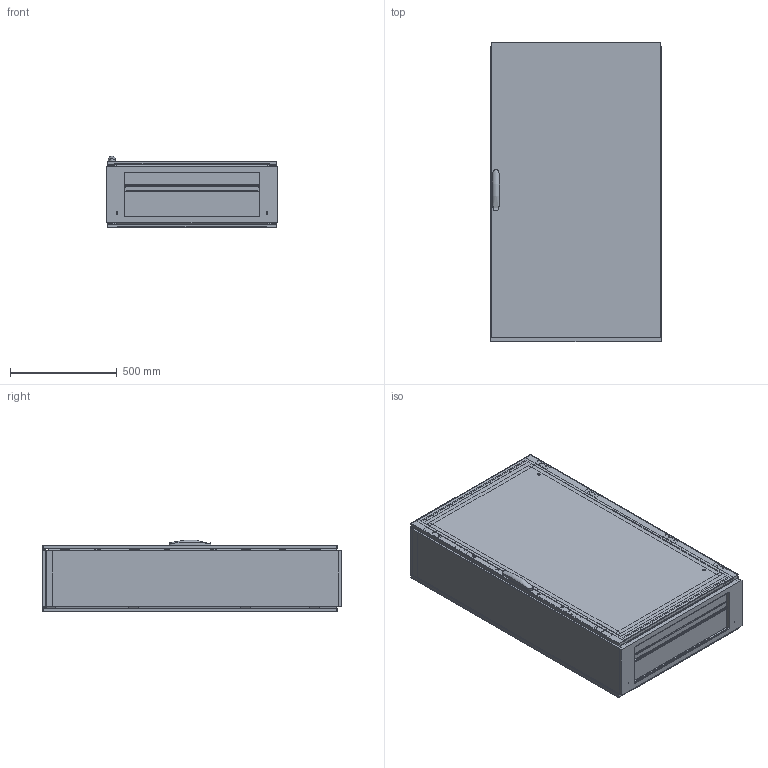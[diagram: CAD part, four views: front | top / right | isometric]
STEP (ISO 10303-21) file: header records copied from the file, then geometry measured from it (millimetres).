
FILE_DESCRIPTION(/* description */ ('STEP AP203'),/* implementation_level */ '2;1');
FILE_NAME(/* name */ 'MKS14083R5(0)',/* time_stamp */ '2024-02-21T16:41:46+01:00',/* author */ ('License CC BY-ND 4.0'),/* organization */ ('CADENAS'),/* preprocessor_version */ 'ST-DEVELOPER v19.3',/* originating_system */ 'PARTsolutions',/* authorisation */ ' ');
FILE_SCHEMA (('CONFIG_CONTROL_DESIGN'));
Length unit declared in the file: millimetre
Products named in the file (18): MKS14083R5(0); MKS14083R5(0)_Frame; CRPK08(0)_Rear Panel Mounting Kit; CRP1408R5(0)_Rear Panel; DNMK02(0)_Hinge Right; DN1408R5(0)_Plain door; LSSDXXXX(0)_Lock; LSSD1400(0)_Espagnolette Top; LSSD1400(0)_Espagnolette Bottom; DNMK01(0)_Rod catches; MPA06(0)_Mounting Plate Brackets 1; MP1408(0)_P1; MPA06(0)_Mounting Plate Brackets 2; MPA06(0)_Mounting Plate Brackets 3; MPA06(0)_Mounting Plate Brackets 4; CCR083R5(0)_MKD Roof plate; CBP080(0)_Bottom Plate 1; CBP080(0)_Bottom Plate 2
Assembly tree (30 placements, depth 2):
  MKS14083R5(0)
    MKS14083R5(0)_Frame
    CRPK08(0)_Rear Panel Mounting Kit  x8
    CRP1408R5(0)_Rear Panel
    DNMK02(0)_Hinge Right  x4
    DN1408R5(0)_Plain door
    LSSDXXXX(0)_Lock
    LSSD1400(0)_Espagnolette Top
    LSSD1400(0)_Espagnolette Bottom
    DNMK01(0)_Rod catches  x4
    MPA06(0)_Mounting Plate Brackets 1
    MP1408(0)_P1
    MPA06(0)_Mounting Plate Brackets 2
    MPA06(0)_Mounting Plate Brackets 3
    MPA06(0)_Mounting Plate Brackets 4
    CCR083R5(0)_MKD Roof plate
    CBP080(0)_Bottom Plate 1
    CBP080(0)_Bottom Plate 2
Bounding box: 800 x 1405 x 334.85 mm (x, y, z)
Volume: 19200171.2 mm3; surface area: 11210000.2 mm2
Topology: 30 solids, 30 shells, 1299 faces, 3369 edges, 2223 vertices
Faces by surface type: plane 1118, cylinder 122, cone 58, torus 1
Full cylindrical faces by diameter (mm): 2.55 x2, 5 x18, 5.2 x2, 6 x6, 7 x6, 7.4 x4, 8 x18, 9 x2, 10 x8, 13 x2, 14 x4
Entity records: 30612 total; most frequent: CARTESIAN_POINT 5294, ORIENTED_EDGE 4928, DIRECTION 4748, EDGE_CURVE 2464, LINE 2180, VECTOR 2180, VERTEX_POINT 1680, AXIS2_PLACEMENT_3D 1284
